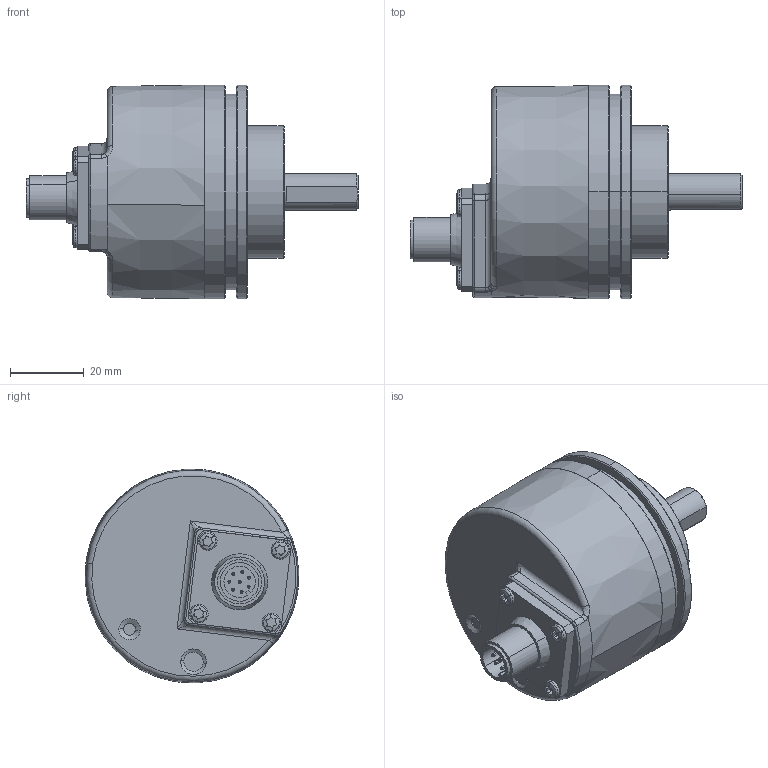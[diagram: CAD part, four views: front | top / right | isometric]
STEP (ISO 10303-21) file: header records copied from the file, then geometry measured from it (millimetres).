
FILE_DESCRIPTION (( 'STEP AP203' ), '1' );
FILE_NAME ('8.5814.12X5.XXXX.STEP', '2013-11-21T07:57:37', ( 'HeirlerN' ), ( 'Microsoft' ), 'SwSTEP 2.0', 'SolidWorks 2013', '' );
FILE_SCHEMA (( 'CONFIG_CONTROL_DESIGN' ));
Length unit declared in the file: millimetre
Products named in the file (1): 8.5814.12X5.XXXX
Bounding box: 90 x 58 x 58 mm (x, y, z)
Volume: 63194.3 mm3; surface area: 40140.7 mm2
Topology: 9 solids, 9 shells, 764 faces, 1885 edges, 1133 vertices
Faces by surface type: cylinder 237, plane 191, cone 169, torus 90, sphere 44, bspline 33
Entity records: 23656 total; most frequent: CARTESIAN_POINT 5992, DIRECTION 3930, ORIENTED_EDGE 3522, EDGE_CURVE 1761, AXIS2_PLACEMENT_3D 1649, VERTEX_POINT 1087, CIRCLE 917, EDGE_LOOP 870
